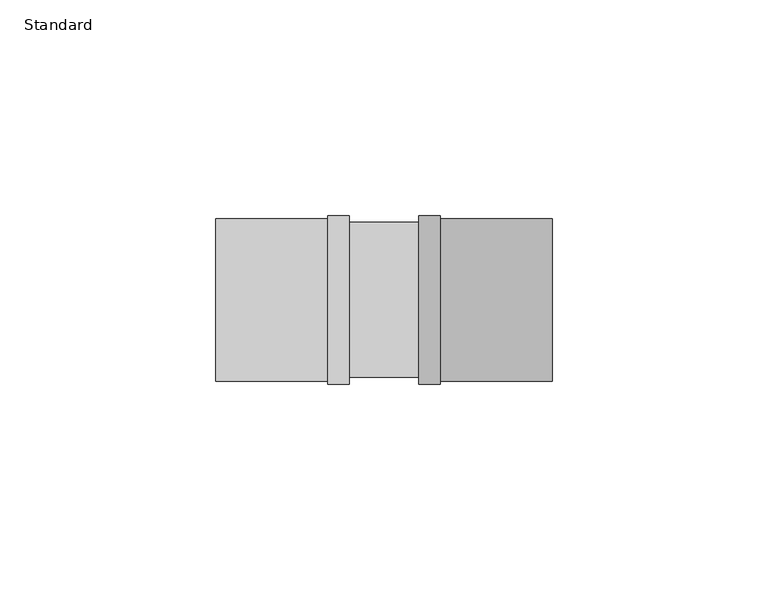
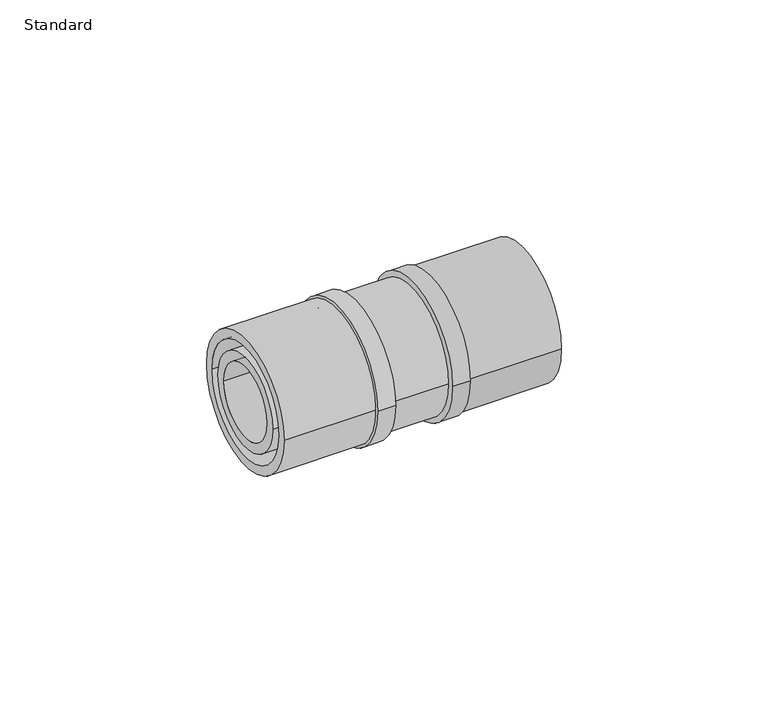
"""IFC4 building model written with IfcOpenShell, lengths in millimetres: pipe fitting geometry, PIF_Tigris_Coupler_M-K_Wavin : Standard."""

from ifc_helpers import new_model, si_unit, point, frame, origin, origin_2d, place, context, project, spatial, circle_curve, trimmed, segment, composite_curve, outline, extrude, source, transform, mapped, element, save


def standard_0df5a764(model_context):
    return source(origin(), model_context, "Body", "SweptSolid", [
        extrude(outline(composite_curve([segment(trimmed(circle_curve(origin_2d(), 19.5), [point((-19.5, 0.0))], [point((19.5, 0.0))], False, "CARTESIAN"), True, "CONTINUOUS"), segment(trimmed(circle_curve(origin_2d(), 19.5), [point((19.5, 0.0))], [point((-19.5, 0.0))], False, "CARTESIAN"), True, "CONTINUOUS")], self_intersect=False)), frame((8.0, 0.0, 0.0), z_axis=(1.0, 0.0, 0.0), x_axis=(0.0, 1.0, 0.0)), (0.0, 0.0, 1.0), 5.0),
        extrude(outline(composite_curve([segment(trimmed(circle_curve(origin_2d(), 18.85), [point((-18.85, 0.0))], [point((18.85, 0.0))], False, "CARTESIAN"), True, "CONTINUOUS"), segment(trimmed(circle_curve(origin_2d(), 18.85), [point((18.85, 0.0))], [point((-18.85, 0.0))], False, "CARTESIAN"), True, "CONTINUOUS")], self_intersect=False), holes=[composite_curve([segment(trimmed(circle_curve(origin_2d(), 16.2), [point((-16.2, 0.0))], [point((16.2, 0.0))], True, "CARTESIAN"), True, "CONTINUOUS"), segment(trimmed(circle_curve(origin_2d(), 16.2), [point((16.2, 0.0))], [point((-16.2, 0.0))], True, "CARTESIAN"), True, "CONTINUOUS")], self_intersect=False)]), frame((13.0, 0.0, 0.0), z_axis=(1.0, 0.0, 0.0), x_axis=(0.0, 1.0, 0.0)), (0.0, 0.0, 1.0), 26.0),
        extrude(outline(composite_curve([segment(trimmed(circle_curve(origin_2d(), 13.325), [point((-13.325, 0.0))], [point((13.325, 0.0))], False, "CARTESIAN"), True, "CONTINUOUS"), segment(trimmed(circle_curve(origin_2d(), 13.325), [point((13.325, 0.0))], [point((-13.325, 0.0))], False, "CARTESIAN"), True, "CONTINUOUS")], self_intersect=False), holes=[composite_curve([segment(trimmed(circle_curve(origin_2d(), 10.45), [point((-10.45, 0.0))], [point((10.45, 0.0))], True, "CARTESIAN"), True, "CONTINUOUS"), segment(trimmed(circle_curve(origin_2d(), 10.45), [point((10.45, 0.0))], [point((-10.45, 0.0))], True, "CARTESIAN"), True, "CONTINUOUS")], self_intersect=False)]), frame((9.0, 0.0, 0.0), z_axis=(1.0, 0.0, 0.0), x_axis=(0.0, 1.0, 0.0)), (0.0, 0.0, 1.0), 30.0),
        extrude(outline(composite_curve([segment(trimmed(circle_curve(origin_2d(), 19.5), [point((-19.5, 0.0))], [point((19.5, 0.0))], False, "CARTESIAN"), True, "CONTINUOUS"), segment(trimmed(circle_curve(origin_2d(), 19.5), [point((19.5, 0.0))], [point((-19.5, 0.0))], False, "CARTESIAN"), True, "CONTINUOUS")], self_intersect=False)), frame((-13.0, 0.0, 0.0), z_axis=(1.0, 0.0, 0.0), x_axis=(0.0, 1.0, 0.0)), (0.0, 0.0, 1.0), 5.0),
        extrude(outline(composite_curve([segment(trimmed(circle_curve(origin_2d(), 18.85), [point((-18.85, 0.0))], [point((18.85, 0.0))], False, "CARTESIAN"), True, "CONTINUOUS"), segment(trimmed(circle_curve(origin_2d(), 18.85), [point((18.85, 0.0))], [point((-18.85, 0.0))], False, "CARTESIAN"), True, "CONTINUOUS")], self_intersect=False), holes=[composite_curve([segment(trimmed(circle_curve(origin_2d(), 16.2), [point((-16.2, 0.0))], [point((16.2, 0.0))], True, "CARTESIAN"), True, "CONTINUOUS"), segment(trimmed(circle_curve(origin_2d(), 16.2), [point((16.2, 0.0))], [point((-16.2, 0.0))], True, "CARTESIAN"), True, "CONTINUOUS")], self_intersect=False)]), frame((-39.0, 0.0, 0.0), z_axis=(1.0, 0.0, 0.0), x_axis=(0.0, 1.0, 0.0)), (0.0, 0.0, 1.0), 26.0),
        extrude(outline(composite_curve([segment(trimmed(circle_curve(origin_2d(), 13.325), [point((-13.325, 0.0))], [point((13.325, 0.0))], False, "CARTESIAN"), True, "CONTINUOUS"), segment(trimmed(circle_curve(origin_2d(), 13.325), [point((13.325, 0.0))], [point((-13.325, 0.0))], False, "CARTESIAN"), True, "CONTINUOUS")], self_intersect=False), holes=[composite_curve([segment(trimmed(circle_curve(origin_2d(), 10.45), [point((-10.45, 0.0))], [point((10.45, 0.0))], True, "CARTESIAN"), True, "CONTINUOUS"), segment(trimmed(circle_curve(origin_2d(), 10.45), [point((10.45, 0.0))], [point((-10.45, 0.0))], True, "CARTESIAN"), True, "CONTINUOUS")], self_intersect=False)]), frame((-39.0, 0.0, 0.0), z_axis=(1.0, 0.0, 0.0), x_axis=(0.0, 1.0, 0.0)), (0.0, 0.0, 1.0), 30.0),
        extrude(outline(composite_curve([segment(trimmed(circle_curve(origin_2d(), 17.95), [point((-17.95, 0.0))], [point((17.95, 0.0))], False, "CARTESIAN"), True, "CONTINUOUS"), segment(trimmed(circle_curve(origin_2d(), 17.95), [point((17.95, 0.0))], [point((-17.95, 0.0))], False, "CARTESIAN"), True, "CONTINUOUS")], self_intersect=False)), frame((-9.0, 0.0, 0.0), z_axis=(1.0, 0.0, 0.0), x_axis=(0.0, 1.0, 0.0)), (0.0, 0.0, 1.0), 18.0),
    ])


if __name__ == "__main__":
    model = new_model("IFC4")
    model_context = context("Model", 3, world=origin())
    ifc_project = project(units=[si_unit("LENGTHUNIT", "METRE", prefix="MILLI")], contexts=[model_context])
    site = spatial("IfcSite", under=ifc_project)
    building = spatial("IfcBuilding", under=site)
    placement = place(None, origin())
    standard_shape = standard_0df5a764(model_context)
    element("IfcPipeFitting", 1, ObjectType="PIF_Tigris_Coupler_M-K_Wavin : Standard", at=placement, inside=building, context=model_context, shape_type="MappedRepresentation", body=[
        mapped(standard_shape, transform((0.0, 0.0, 0.0), x_axis=(1.0, 0.0, 0.0), y_axis=(0.0, 1.0, 0.0), z_axis=(0.0, 0.0, 1.0))),
    ])
    save(model, "model.ifc")
